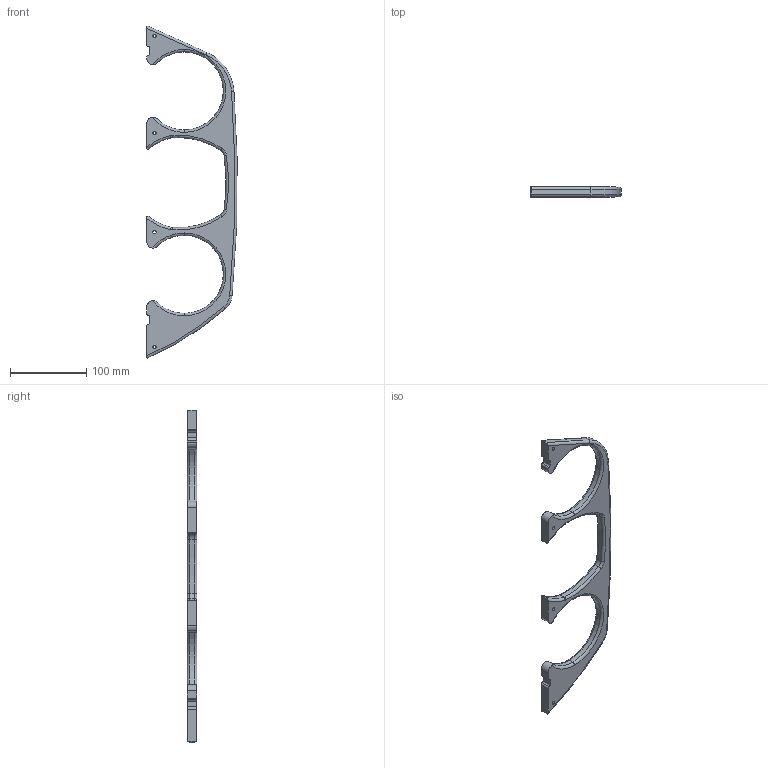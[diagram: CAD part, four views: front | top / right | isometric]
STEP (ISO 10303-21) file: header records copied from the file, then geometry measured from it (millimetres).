
FILE_DESCRIPTION (( 'STEP AP214' ), '1' );
FILE_NAME ('BROV2-HEAVY-P-GUARD-X1B.STEP', '2018-06-19T21:49:28', ( '' ), ( '' ), 'SwSTEP 2.0', 'SolidWorks 2016', '' );
FILE_SCHEMA (( 'AUTOMOTIVE_DESIGN' ));
Length unit declared in the file: millimetre
Products named in the file (1): BROV2-HEAVY-P-GUARD-X1B
Bounding box: 118.17 x 12.7 x 434.46 mm (x, y, z)
Volume: 193730.1 mm3; surface area: 48692.6 mm2
Topology: 1 solids, 1 shells, 101 faces, 263 edges, 164 vertices
Faces by surface type: cylinder 50, torus 40, plane 11
Entity records: 3395 total; most frequent: CARTESIAN_POINT 801, DIRECTION 589, ORIENTED_EDGE 526, EDGE_CURVE 263, AXIS2_PLACEMENT_3D 256, VERTEX_POINT 164, CIRCLE 154, EDGE_LOOP 109
